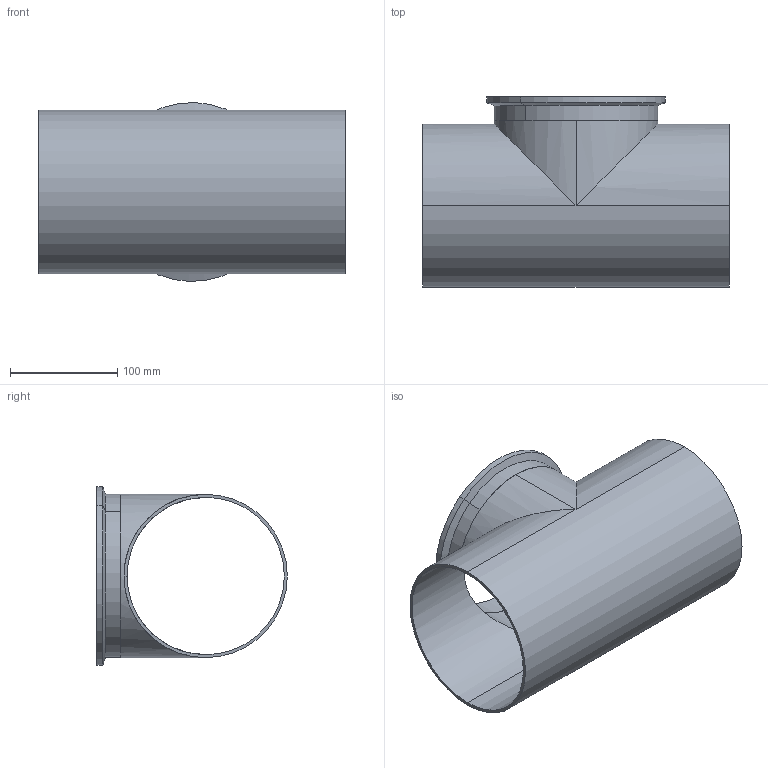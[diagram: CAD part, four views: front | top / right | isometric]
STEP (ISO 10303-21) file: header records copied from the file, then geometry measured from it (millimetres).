
FILE_DESCRIPTION (( 'STEP AP203' ), '1' );
FILE_NAME ('E7WWCS6.0.STEP', '2018-05-02T19:18:43', ( 'vneprd' ), ( 'Microsoft' ), 'SwSTEP 2.0', 'SolidWorks 2014', '' );
FILE_SCHEMA (( 'CONFIG_CONTROL_DESIGN' ));
Length unit declared in the file: inch
Products named in the file (3): V7WS6.0; EG2CS6.0; E7WWCS6.0
Assembly tree (2 placements, depth 2):
  E7WWCS6.0
    V7WS6.0
    EG2CS6.0
Bounding box: 285.75 x 177.93 x 166.8 mm (x, y, z)
Volume: 404133.5 mm3; surface area: 288172 mm2
Topology: 2 solids, 2 shells, 30 faces, 62 edges, 36 vertices
Faces by surface type: cylinder 16, plane 6, torus 6, cone 2
Entity records: 1119 total; most frequent: DIRECTION 166, CARTESIAN_POINT 145, ORIENTED_EDGE 124, AXIS2_PLACEMENT_3D 73, EDGE_CURVE 62, CIRCLE 38, VERTEX_POINT 36, EDGE_LOOP 36
